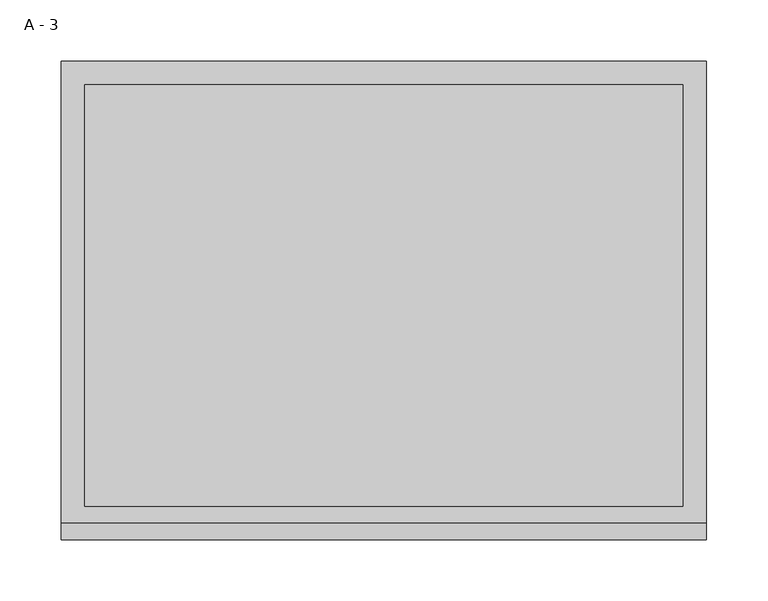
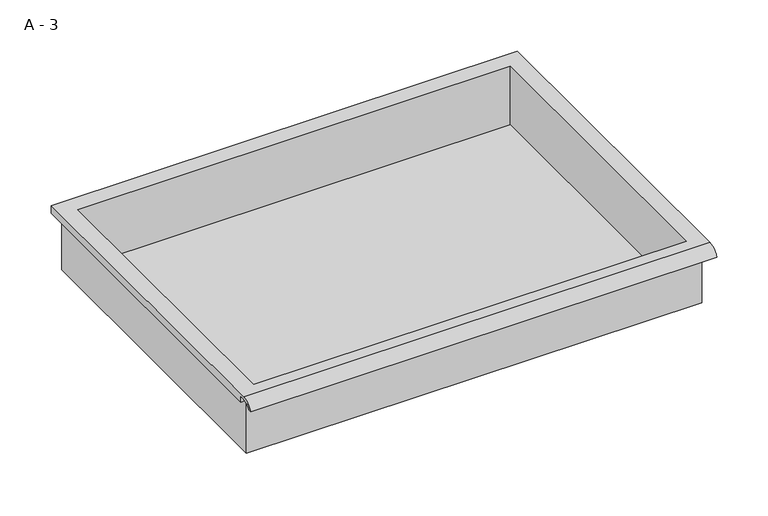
"""IFC4 building model written with IfcOpenShell, lengths in millimetres: furniture geometry, HermanMiller_CoStruc_CO207_Drawer : A - 3."""

from ifc_helpers import new_model, si_unit, frame, origin, place, context, project, spatial, polyline, circle_curve, source, transform, mapped, element, save
from ifc_brep_helpers import plane_surface, cylinder_surface, revolved_surface, advanced_brep


def a_3_cf56a04d(model_context):
    return source(origin(), model_context, "Body", "AdvancedBrep", [
        advanced_brep(
        [(-257.1076517, -176.2125, 766.7752), (257.2423483, -176.2125, 766.7752), (257.2423483, -176.2125, 830.2752), (263.5923483, -176.2125, 830.2752), (263.5923483, -176.2125, 836.5823341), (-263.4576517, -176.2125, 836.5823341), (-263.4576517, -176.2125, 830.2752), (-257.1076517, -176.2125, 830.2752), (257.2423483, 185.7375, 766.7752), (-257.1076517, 185.7375, 766.7752), (-257.1076517, 185.7375, 830.2752), (257.2423483, 185.7375, 830.2752), (263.5923483, -181.6070544, 839.8002), (263.5923483, 195.2625, 839.8002), (-263.4576517, 195.2625, 839.8002), (-263.4576517, -181.6070544, 839.8002), (244.5423483, -168.275, 839.8002), (-244.4076517, -168.275, 839.8002), (-244.4076517, 176.2125, 839.8002), (244.5423483, 176.2125, 839.8002), (263.5923483, -195.2625, 830.2752), (263.5923483, -191.8280601, 830.2752), (263.5923483, -180.4714815, 836.5823341), (263.5923483, 195.2625, 830.2752), (-263.4576517, 195.2625, 830.2752), (-263.4576517, -180.4714815, 836.5823341), (-263.4576517, -191.8280601, 830.2752), (-263.4576517, -195.2625, 830.2752), (-244.4076517, -168.275, 769.8013719), (244.5423483, -168.275, 769.8013719), (244.5423483, 176.2125, 769.8013719), (-244.4076517, 176.2125, 769.8013719)],
        [
            (0, 1),
            (1, 2),
            (2, 3),
            (3, 4),
            (4, 5),
            (5, 6),
            (6, 7),
            (7, 0),
            (8, 9),
            (9, 10),
            (10, 11),
            (11, 8),
            (0, 9),
            (8, 1),
            (11, 2),
            (12, 13),
            (13, 14),
            (14, 15),
            (15, 12),
            (16, 17),
            (17, 18),
            (18, 19),
            (19, 16),
            (7, 10),
            (12, 20, circle_curve(frame((263.5923483, -181.6070544, 825.2491859), z_axis=(1.0, 0.0, 0.0), x_axis=(0.0, 1.0, 0.0)), 14.5510141)),
            (20, 21),
            (21, 22, circle_curve(frame((263.5923483, -181.6070544, 825.2491859), z_axis=(-1.0, 0.0, 0.0), x_axis=(0.0, 1.0, 0.0)), 11.3898979)),
            (22, 4),
            (3, 23),
            (23, 13),
            (14, 24),
            (24, 6),
            (5, 25),
            (25, 26, circle_curve(frame((-263.4576517, -181.6070544, 825.2491859), z_axis=(1.0, 0.0, 0.0), x_axis=(0.0, 1.0, 0.0)), 11.3898979)),
            (26, 27),
            (27, 15, circle_curve(frame((-263.4576517, -181.6070544, 825.2491859), z_axis=(-1.0, 0.0, 0.0), x_axis=(0.0, 1.0, 0.0)), 14.5510141)),
            (27, 20),
            (26, 21),
            (25, 22),
            (24, 23),
            (28, 29),
            (29, 30),
            (30, 31),
            (31, 28),
            (28, 17),
            (16, 29),
            (19, 30),
            (18, 31),
        ],
        [
            plane_surface(frame((257.2423483, -176.2125, 766.7752), z_axis=(0.0, -1.0, 0.0), x_axis=(1.0, 0.0, 0.0))),
            plane_surface(frame((257.2423483, 185.7375, 766.7752), z_axis=(0.0, 1.0, 0.0), x_axis=(-1.0, 0.0, 0.0))),
            plane_surface(frame((-257.1076517, -176.2125, 766.7752), z_axis=(0.0, 0.0, -1.0), x_axis=(0.0, 1.0, 0.0))),
            plane_surface(frame((257.2423483, -176.2125, 766.7752), z_axis=(1.0, 0.0, 0.0), x_axis=(0.0, 1.0, 0.0))),
            plane_surface(frame((257.2423483, -176.2125, 839.8002), z_axis=(0.0, 0.0, 1.0), x_axis=(0.0, 1.0, 0.0))),
            plane_surface(frame((-257.1076517, -176.2125, 839.8002), z_axis=(-1.0, 0.0, 0.0), x_axis=(0.0, 1.0, 0.0))),
            plane_surface(frame((263.5923483, 195.2625, 839.8002), z_axis=(1.0, 0.0, 0.0), x_axis=(0.0, -1.0, 0.0))),
            plane_surface(frame((-263.4576517, 195.2625, 839.8002), z_axis=(-1.0, 0.0, 0.0), x_axis=(0.0, 1.0, 0.0))),
            cylinder_surface(frame((-263.4576517, -181.6070544, 825.2491859), z_axis=(1.0, 0.0, 0.0), x_axis=(0.0, 1.0, 0.0)), 14.5510141),
            plane_surface(frame((263.5923483, -195.2625, 830.2752), z_axis=(0.0, -7.212409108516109e-12, -1.0), x_axis=(-1.0, 0.0, 0.0))),
            revolved_surface(polyline([(-263.4576517, -170.21715650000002, 825.2491859), (263.59234829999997, -170.21715650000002, 825.2491859)]), (-263.4576517, -181.6070544, 825.2491859), (-1.0, 0.0, 0.0)),
            plane_surface(frame((263.5923483, -180.4714815, 836.5823341), z_axis=(0.0, -1.782962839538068e-11, -1.0), x_axis=(-1.0, 0.0, 0.0))),
            plane_surface(frame((263.5923483, -176.2125, 830.2752), z_axis=(0.0, 0.0, -1.0), x_axis=(-1.0, 0.0, 0.0))),
            plane_surface(frame((263.5923483, 195.2625, 830.2752), z_axis=(0.0, 1.0, 0.0), x_axis=(-1.0, 0.0, 0.0))),
            plane_surface(frame((244.5423483, -168.275, 769.8013719), z_axis=(0.0, 0.0, 1.0), x_axis=(-1.0, 0.0, 0.0))),
            plane_surface(frame((-244.4076517, -168.275, 839.8002), z_axis=(0.0, 1.0, 0.0), x_axis=(0.0, 0.0, -1.0))),
            plane_surface(frame((244.5423483, -168.275, 839.8002), z_axis=(-1.0, 0.0, 0.0), x_axis=(0.0, 0.0, -1.0))),
            plane_surface(frame((244.5423483, 176.2125, 839.8002), z_axis=(0.0, -1.0, 0.0), x_axis=(0.0, 0.0, -1.0))),
            plane_surface(frame((-244.4076517, 176.2125, 839.8002), z_axis=(1.0, 0.0, 0.0), x_axis=(0.0, 0.0, -1.0))),
        ],
        [
            (0, [[1, 2, 3, 4, 5, 6, 7, 8]]),
            (1, [[9, 10, 11, 12]]),
            (2, [[-1, 13, -9, 14]]),
            (3, [[-14, -12, 15, -2]]),
            (4, [[16, 17, 18, 19], [20, 21, 22, 23]]),
            (5, [[-13, -8, 24, -10]]),
            (6, [[-16, 25, 26, 27, 28, -4, 29, 30]]),
            (7, [[31, 32, -6, 33, 34, 35, 36, -18]]),
            (8, [[-25, -19, -36, 37]]),
            (9, [[-26, -37, -35, 38]]),
            (10, [[-27, -38, -34, 39]]),
            (11, [[-28, -39, -33, -5]]),
            (12, [[-29, -3, -15, -11, -24, -7, -32, 40]]),
            (13, [[-30, -40, -31, -17]]),
            (14, [[41, 42, 43, 44]]),
            (15, [[-41, 45, -20, 46]]),
            (16, [[-42, -46, -23, 47]]),
            (17, [[-43, -47, -22, 48]]),
            (18, [[-44, -48, -21, -45]]),
        ],
    ),
    ])


if __name__ == "__main__":
    model = new_model("IFC4")
    model_context = context("Model", 3, world=origin())
    ifc_project = project(units=[si_unit("LENGTHUNIT", "METRE", prefix="MILLI")], contexts=[model_context])
    site = spatial("IfcSite", under=ifc_project)
    building = spatial("IfcBuilding", under=site)
    placement = place(None, origin())
    a_3_shape = a_3_cf56a04d(model_context)
    element("IfcFurniture", 1, ObjectType="HermanMiller_CoStruc_CO207_Drawer : A - 3", at=placement, inside=building, context=model_context, shape_type="MappedRepresentation", body=[
        mapped(a_3_shape, transform((0.0, 0.0, 0.0), x_axis=(1.0, 0.0, 0.0), y_axis=(0.0, 1.0, 0.0), z_axis=(0.0, 0.0, 1.0))),
    ])
    save(model, "model.ifc")
